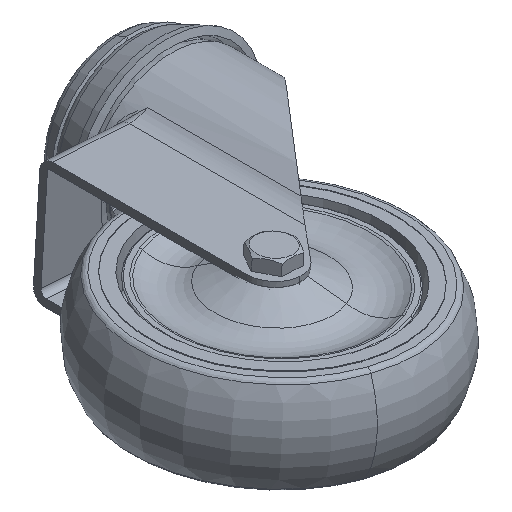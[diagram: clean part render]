
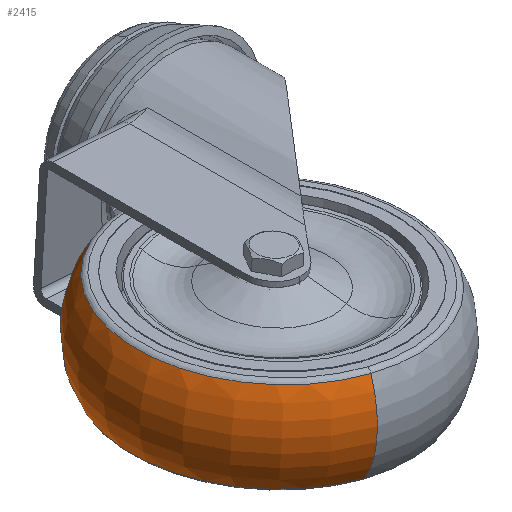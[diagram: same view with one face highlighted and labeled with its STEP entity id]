
A CAD part, isometric view. The second image highlights one B-rep face of the part: STEP entity #2415.
In plain terms, the highlighted toroidal (fillet/blend) face has major radius 22 mm and minor radius 28 mm.
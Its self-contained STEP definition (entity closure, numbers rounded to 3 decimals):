
#2345 = VERTEX_POINT ( 'NONE', #7943 ) ;
#2349 = EDGE_CURVE ( 'NONE', #2363, #2345, #7919, .T. ) ;
#2353 = VERTEX_POINT ( 'NONE', #7929 ) ;
#2361 = EDGE_CURVE ( 'NONE', #2363, #2369, #7926, .T. ) ;
#2363 = VERTEX_POINT ( 'NONE', #7979 ) ;
#2369 = VERTEX_POINT ( 'NONE', #7932 ) ;
#2394 = EDGE_CURVE ( 'NONE', #2369, #2353, #8043, .T. ) ;
#2415 = ADVANCED_FACE ( 'NONE', ( #8024 ), #8066, .T. ) ;
#2416 = ORIENTED_EDGE ( 'NONE', *, *, #2349, .F. ) ;
#2417 = ORIENTED_EDGE ( 'NONE', *, *, #2361, .T. ) ;
#2420 = EDGE_CURVE ( 'NONE', #2345, #2353, #8055, .T. ) ;
#2426 = EDGE_LOOP ( 'NONE', ( #2416, #2417, #2466, #2469 ) ) ;
#2466 = ORIENTED_EDGE ( 'NONE', *, *, #2394, .T. ) ;
#2469 = ORIENTED_EDGE ( 'NONE', *, *, #2420, .F. ) ;
#7919 = CIRCLE ( 'NONE', #7936, 28. ) ;
#7926 = CIRCLE ( 'NONE', #7977, 45.764 ) ;
#7929 = CARTESIAN_POINT ( 'NONE',  ( 116.304, -22.207, 215.901 ) ) ;
#7932 = CARTESIAN_POINT ( 'NONE',  ( 118.209, -22.207, 245.455 ) ) ;
#7933 = DIRECTION ( 'NONE',  ( 0.244, 0.97, 0. ) ) ;
#7934 = DIRECTION ( 'NONE',  ( 0.968, -0.243, -0.062 ) ) ;
#7935 = CARTESIAN_POINT ( 'NONE',  ( 100.802, -87.935, 231.738 ) ) ;
#7936 = AXIS2_PLACEMENT_3D ( 'NONE', #7935, #7934, #7933 ) ;
#7943 = CARTESIAN_POINT ( 'NONE',  ( 94.079, -110.985, 217.333 ) ) ;
#7975 = DIRECTION ( 'NONE',  ( 0.243, 0.97, -0.016 ) ) ;
#7976 = DIRECTION ( 'NONE',  ( -0.064, 0., -0.998 ) ) ;
#7977 = AXIS2_PLACEMENT_3D ( 'NONE', #7978, #7976, #7975 ) ;
#7978 = CARTESIAN_POINT ( 'NONE',  ( 107.097, -66.596, 246.171 ) ) ;
#7979 = CARTESIAN_POINT ( 'NONE',  ( 95.984, -110.985, 246.887 ) ) ;
#8024 = FACE_OUTER_BOUND ( 'NONE', #2426, .T. ) ;
#8031 = DIRECTION ( 'NONE',  ( -0.244, -0.97, 0. ) ) ;
#8032 = DIRECTION ( 'NONE',  ( -0.968, 0.243, 0.062 ) ) ;
#8033 = CARTESIAN_POINT ( 'NONE',  ( 111.486, -45.257, 231.05 ) ) ;
#8034 = AXIS2_PLACEMENT_3D ( 'NONE', #8033, #8032, #8031 ) ;
#8043 = CIRCLE ( 'NONE', #8034, 28. ) ;
#8051 = DIRECTION ( 'NONE',  ( 0.243, 0.97, -0.016 ) ) ;
#8052 = DIRECTION ( 'NONE',  ( -0.064, 0., -0.998 ) ) ;
#8053 = CARTESIAN_POINT ( 'NONE',  ( 105.192, -66.596, 216.617 ) ) ;
#8054 = AXIS2_PLACEMENT_3D ( 'NONE', #8053, #8052, #8051 ) ;
#8055 = CIRCLE ( 'NONE', #8054, 45.764 ) ;
#8056 = DIRECTION ( 'NONE',  ( 0.243, 0.97, -0.016 ) ) ;
#8057 = DIRECTION ( 'NONE',  ( -0.064, 0., -0.998 ) ) ;
#8058 = AXIS2_PLACEMENT_3D ( 'NONE', #8064, #8057, #8056 ) ;
#8064 = CARTESIAN_POINT ( 'NONE',  ( 106.144, -66.596, 231.394 ) ) ;
#8066 = TOROIDAL_SURFACE ( 'NONE', #8058, 22., 28. ) ;
